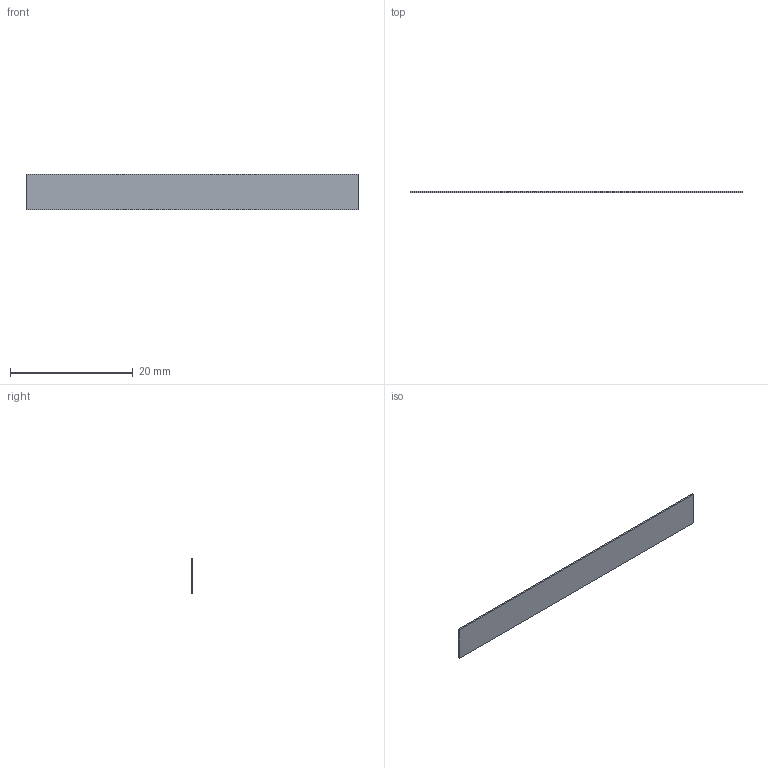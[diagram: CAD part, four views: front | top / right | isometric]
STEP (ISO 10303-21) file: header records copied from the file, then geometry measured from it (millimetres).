
FILE_DESCRIPTION(/* description */ (''),/* implementation_level */ '2;1');
FILE_NAME(/* name */ 'C27_R2_Battery_Lower_Liner.step',/* time_stamp */ '2026-09-10T17:48:58-07:00',/* author */ (''),/* organization */ (''),/* preprocessor_version */ 'ST-DEVELOPER v20.1',/* originating_system */ 'Autodesk Translation Framework v15.8.0.0',/* authorisation */ '');
FILE_SCHEMA (('AUTOMOTIVE_DESIGN { 1 0 10303 214 3 1 1 }'));
Length unit declared in the file: millimetre
Products named in the file (1): 2026-09-10-17-48-58-805
Bounding box: 54 x 0.26 x 5.7 mm (x, y, z)
Volume: 80 mm3; surface area: 646.6 mm2
Topology: 1 solids, 1 shells, 6 faces, 12 edges, 8 vertices
Faces by surface type: plane 6
Entity records: 189 total; most frequent: CARTESIAN_POINT 27, DIRECTION 26, ORIENTED_EDGE 24, LINE 12, VECTOR 12, EDGE_CURVE 12, VERTEX_POINT 8, AXIS2_PLACEMENT_3D 7
